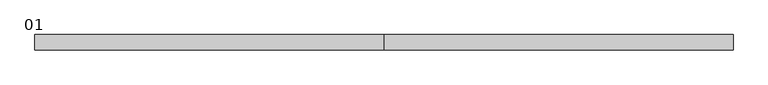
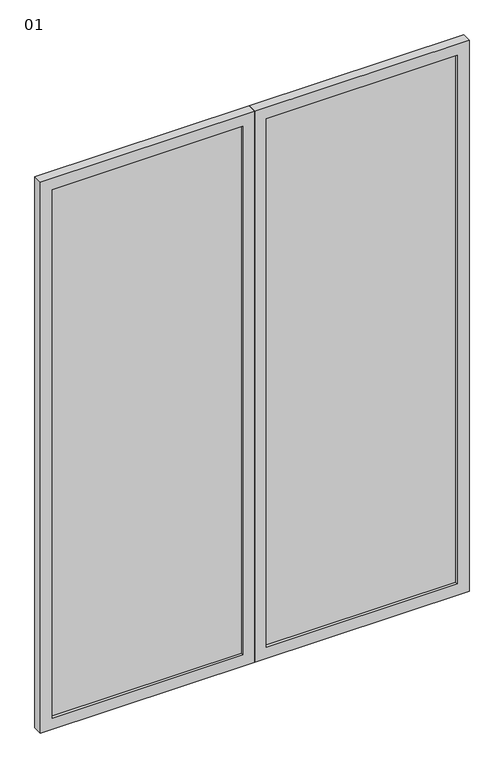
"""IFC4 building model written with IfcOpenShell, lengths in millimetres: plate geometry, pnl - PORTÃO DE VIDRO DE ABRIR 01 - 2 FOLHAS : 01."""

from ifc_helpers import new_model, si_unit, frame, origin, place, context, project, spatial, polyline, outline, extrude, source, transform, mapped, element, save


def plate_01_4595e1b0(model_context):
    return source(origin(), model_context, "Body", "SweptSolid", [
        extrude(outline(polyline([(2500.0, 909.0546893), (2500.0, 0.0), (30.0, 0.0), (30.0, 909.0546893), (2500.0, 909.0546893)]), holes=[polyline([(2450.0, 859.0546893), (80.0, 859.0546893), (80.0, 50.0), (2450.0, 50.0), (2450.0, 859.0546893)])]), frame((0.0, -20.0, 0.0), z_axis=(0.0, 1.0, 0.0), x_axis=(0.0, 0.0, 1.0)), (0.0, 0.0, 1.0), 40.0),
        extrude(outline(polyline([(50.0, -8.0), (50.0, 8.0), (859.0546893, 8.0), (859.0546893, -8.0), (50.0, -8.0)])), frame((0.0, 0.0, 80.0), z_axis=(0.0, 0.0, 1.0), x_axis=(1.0, 0.0, 0.0)), (0.0, 0.0, 1.0), 2370.0),
        extrude(outline(polyline([(-859.0546893, -8.0), (-859.0546893, 8.0), (-50.0, 8.0), (-50.0, -8.0), (-859.0546893, -8.0)])), frame((0.0, 0.0, 80.0), z_axis=(0.0, 0.0, 1.0), x_axis=(1.0, 0.0, 0.0)), (0.0, 0.0, 1.0), 2370.0),
        extrude(outline(polyline([(2500.0, -909.0546893), (30.0, -909.0546893), (30.0, 0.0), (2500.0, 0.0), (2500.0, -909.0546893)]), holes=[polyline([(2450.0, -859.0546893), (2450.0, -50.0), (80.0, -50.0), (80.0, -859.0546893), (2450.0, -859.0546893)])]), frame((0.0, -20.0, 0.0), z_axis=(0.0, 1.0, 0.0), x_axis=(0.0, 0.0, 1.0)), (0.0, 0.0, 1.0), 40.0),
    ])


if __name__ == "__main__":
    model = new_model("IFC4")
    model_context = context("Model", 3, world=origin())
    ifc_project = project(units=[si_unit("LENGTHUNIT", "METRE", prefix="MILLI")], contexts=[model_context])
    site = spatial("IfcSite", under=ifc_project)
    building = spatial("IfcBuilding", under=site)
    placement = place(None, origin())
    plate_01_shape = plate_01_4595e1b0(model_context)
    element("IfcPlate", 1, ObjectType="pnl - PORTÃO DE VIDRO DE ABRIR 01 - 2 FOLHAS : 01", at=placement, inside=building, context=model_context, shape_type="MappedRepresentation", body=[
        mapped(plate_01_shape, transform((0.0, 0.0, 0.0), x_axis=(1.0, 0.0, 0.0), y_axis=(0.0, 1.0, 0.0), z_axis=(0.0, 0.0, 1.0))),
    ])
    save(model, "model.ifc")
